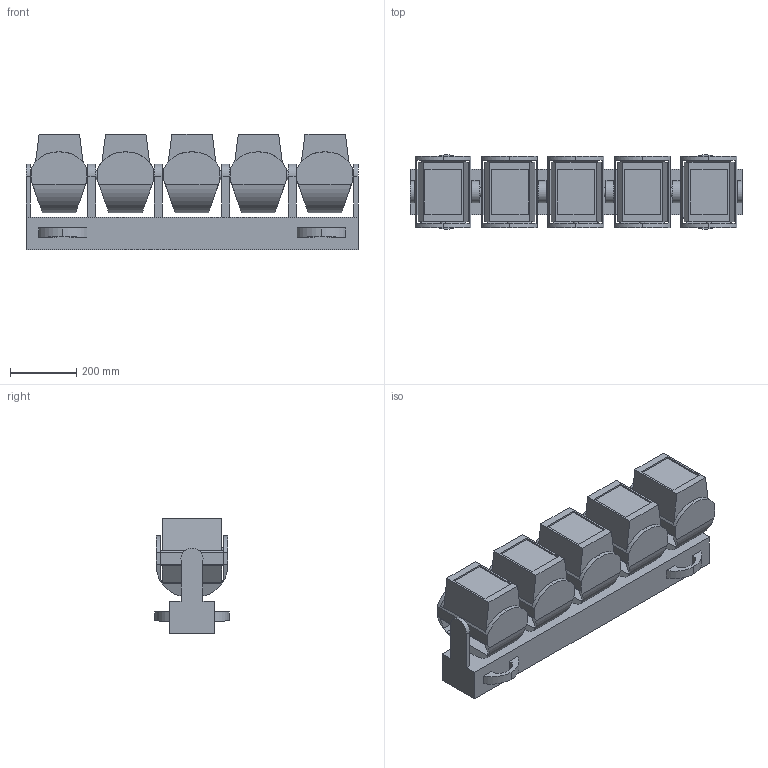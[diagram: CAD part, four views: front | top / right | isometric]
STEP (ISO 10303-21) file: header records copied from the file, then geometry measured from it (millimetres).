
FILE_DESCRIPTION(/* description */ ('Unknown'),/* implementation_level */ '2;1');
FILE_NAME(/* name */ 'COLORADOPXLCURVE5_00000.step',/* time_stamp */ '2026-02-26T11:02:46-05:00',/* author */ (''),/* organization */ (''),/* preprocessor_version */ 'ST-DEVELOPER v20.1',/* originating_system */ 'Autodesk Translation Framework v14.24.0.0',/* authorisation */ '');
FILE_SCHEMA (('AUTOMOTIVE_DESIGN { 1 0 10303 214 3 1 1 }'));
Length unit declared in the file: millimetre
Products named in the file (17): C-5200 LED BAR; base; TILT; TILT (4); TILT (2); TILT (3); TILT (1); PAN; headPAN 5 (1); PAN (1); headPAN 4 (1); PAN (4); headPAN 3; PAN (2); headPAN 2 (1); PAN (3); headPAN 1
Assembly tree (17 placements, depth 3):
  C-5200 LED BAR
    base
    TILT
      TILT (1)  x2
      TILT (4)
      TILT (2)
      TILT (3)
    PAN
      headPAN 5 (1)
    PAN (1)
      headPAN 4 (1)
    PAN (4)
      headPAN 3
    PAN (2)
      headPAN 2 (1)
    PAN (3)
      headPAN 1
Bounding box: 999 x 225.21 x 346.5 mm (x, y, z)
Volume: 40456347.3 mm3; surface area: 2377780.5 mm2
Topology: 11 solids, 11 shells, 305 faces, 787 edges, 524 vertices
Faces by surface type: plane 218, cylinder 87
Full cylindrical faces by diameter (mm): 14 x10, 26.5 x15
Entity records: 8945 total; most frequent: DIRECTION 1505, CARTESIAN_POINT 1493, ORIENTED_EDGE 1418, EDGE_CURVE 709, LINE 537, VECTOR 537, AXIS2_PLACEMENT_3D 484, VERTEX_POINT 472
